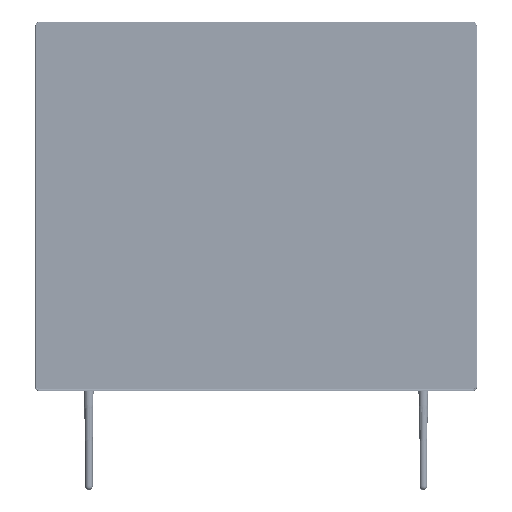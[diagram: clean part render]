
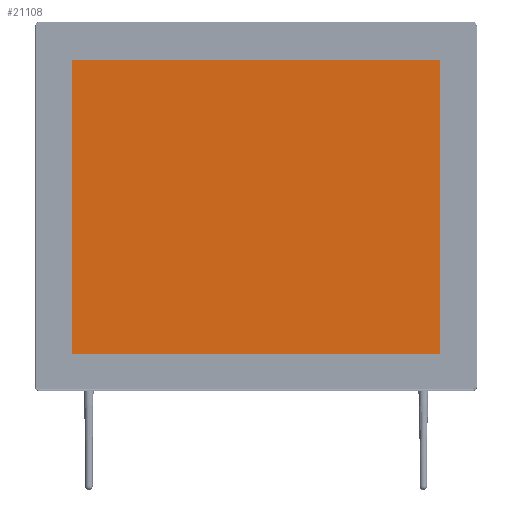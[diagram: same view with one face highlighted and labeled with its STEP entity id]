
A CAD part, front view. The second image highlights one B-rep face of the part: STEP entity #21108.
In plain terms, the highlighted planar face has unit normal (0, -1, 0).
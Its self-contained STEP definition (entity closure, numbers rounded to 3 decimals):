
#1409 = PLANE ( 'NONE',  #151102 ) ;
#15271 = CARTESIAN_POINT ( 'NONE',  ( -188.86, 0.01, 151.23 ) ) ;
#15416 = LINE ( 'NONE', #262521, #252013 ) ;
#21108 = ADVANCED_FACE ( 'NONE', ( #209072 ), #1409, .T. ) ;
#28904 = DIRECTION ( 'NONE',  ( 1., 0., 0. ) ) ;
#38196 = VERTEX_POINT ( 'NONE', #136531 ) ;
#46584 = ORIENTED_EDGE ( 'NONE', *, *, #222672, .T. ) ;
#47061 = CARTESIAN_POINT ( 'NONE',  ( 188.86, 0.01, -151.23 ) ) ;
#61510 = CARTESIAN_POINT ( 'NONE',  ( -188.86, 0.01, 151.23 ) ) ;
#72947 = ORIENTED_EDGE ( 'NONE', *, *, #166973, .T. ) ;
#81272 = DIRECTION ( 'NONE',  ( -1., 0., 0. ) ) ;
#86919 = DIRECTION ( 'NONE',  ( 0., -1., 0. ) ) ;
#111238 = LINE ( 'NONE', #61510, #187712 ) ;
#129591 = ORIENTED_EDGE ( 'NONE', *, *, #256820, .T. ) ;
#133578 = DIRECTION ( 'NONE',  ( 0., 0., -1. ) ) ;
#136531 = CARTESIAN_POINT ( 'NONE',  ( -188.86, 0.01, 151.23 ) ) ;
#151102 = AXIS2_PLACEMENT_3D ( 'NONE', #198747, #86919, #133578 ) ;
#154703 = CARTESIAN_POINT ( 'NONE',  ( -188.86, 0.01, -151.23 ) ) ;
#166973 = EDGE_CURVE ( 'NONE', #192828, #276096, #270830, .T. ) ;
#179731 = CARTESIAN_POINT ( 'NONE',  ( 188.86, 0.01, 151.23 ) ) ;
#187712 = VECTOR ( 'NONE', #194794, 1000. ) ;
#189484 = EDGE_LOOP ( 'NONE', ( #129591, #72947, #46584, #243379 ) ) ;
#192828 = VERTEX_POINT ( 'NONE', #154703 ) ;
#193867 = EDGE_CURVE ( 'NONE', #225703, #38196, #236307, .T. ) ;
#194794 = DIRECTION ( 'NONE',  ( 0., 0., -1. ) ) ;
#198747 = CARTESIAN_POINT ( 'NONE',  ( 0., 0.01, 0. ) ) ;
#208846 = CARTESIAN_POINT ( 'NONE',  ( -188.86, 0.01, -151.23 ) ) ;
#209072 = FACE_OUTER_BOUND ( 'NONE', #189484, .T. ) ;
#222672 = EDGE_CURVE ( 'NONE', #276096, #225703, #15416, .T. ) ;
#225703 = VERTEX_POINT ( 'NONE', #179731 ) ;
#232946 = VECTOR ( 'NONE', #81272, 1000. ) ;
#236307 = LINE ( 'NONE', #15271, #232946 ) ;
#243379 = ORIENTED_EDGE ( 'NONE', *, *, #193867, .T. ) ;
#252013 = VECTOR ( 'NONE', #267313, 1000. ) ;
#256820 = EDGE_CURVE ( 'NONE', #38196, #192828, #111238, .T. ) ;
#262521 = CARTESIAN_POINT ( 'NONE',  ( 188.86, 0.01, 151.23 ) ) ;
#267313 = DIRECTION ( 'NONE',  ( 0., 0., 1. ) ) ;
#270830 = LINE ( 'NONE', #208846, #284779 ) ;
#276096 = VERTEX_POINT ( 'NONE', #47061 ) ;
#284779 = VECTOR ( 'NONE', #28904, 1000. ) ;
